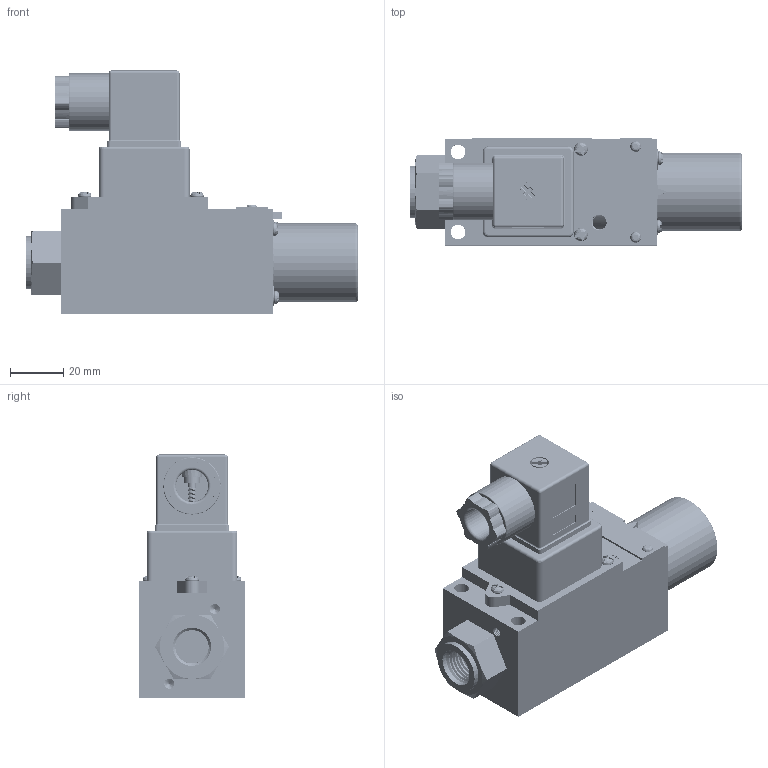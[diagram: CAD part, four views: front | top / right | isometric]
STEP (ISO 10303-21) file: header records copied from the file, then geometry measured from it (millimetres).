
FILE_DESCRIPTION(/* description */ (''),/* implementation_level */ '2;1');
FILE_NAME(/* name */ 'HED4-OA压力继电器.prt.stp',/* time_stamp */ '2022-03-30T19:53:50+08:00',/* author */ (''),/* organization */ (''),/* preprocessor_version */ 'ST-DEVELOPER v16.7',/* originating_system */ 'SIEMENS PLM Software NX 12.0',/* authorisation */ '');
FILE_SCHEMA (('AUTOMOTIVE_DESIGN { 1 0 10303 214 3 1 1 1 }'));
Products named in the file (1): HED4-OA压力继电器
Bounding box: 124.3 x 40 x 91 mm (x, y, z)
Volume: 35213.2 mm3; surface area: 58706.1 mm2
Topology: 23 solids, 25 shells, 1049 faces, 2811 edges, 1838 vertices
Faces by surface type: plane 430, cylinder 413, bspline 72, extrusion 69, cone 42, torus 19, sphere 4
Full cylindrical faces by diameter (mm): 0.653 x1, 0.665 x1, 1.76 x1, 1.8 x2, 1.9 x2, 2 x2, 2.55 x84, 3 x137, 3.4 x16, 3.5 x8, 4 x1, 5 x3, 5.5 x2, 6 x3, 7 x1, 8 x1, 12 x1, 12.5 x6, 13 x1, 14.3 x1, 16.5 x1, 17.5 x2, 19 x1, 19.7 x1, 21.5 x1, 22.4 x1, 28 x2, 29.5 x1
Entity records: 109392 total; most frequent: CARTESIAN_POINT 90686, ORIENTED_EDGE 3804, DIRECTION 3297, EDGE_CURVE 1902, VERTEX_POINT 1304, AXIS2_PLACEMENT_3D 1106, VECTOR 1085, LINE 1016
